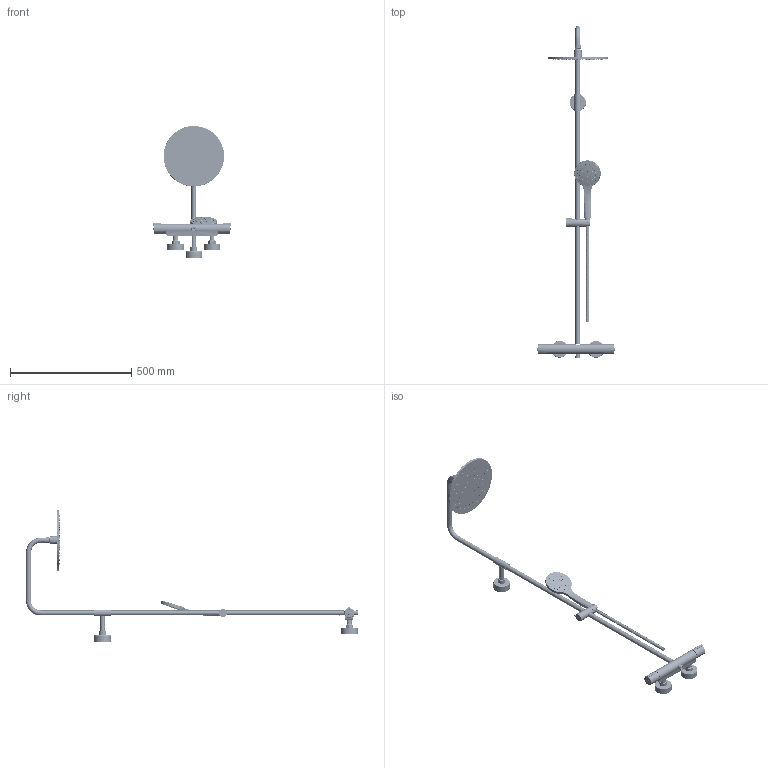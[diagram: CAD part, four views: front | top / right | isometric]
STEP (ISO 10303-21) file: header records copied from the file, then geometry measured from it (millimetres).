
FILE_DESCRIPTION((''),'2;1');
FILE_NAME('F3165SRP251CR_FIEL_3D','2018-04-19T',('ivanv'),(''),'CREO PARAMETRIC BY PTC INC, 2016260','CREO PARAMETRIC BY PTC INC, 2016260','');
FILE_SCHEMA(('CONFIG_CONTROL_DESIGN'));
Products named in the file (1): F3165SRP251CR_FIEL_3D
Bounding box: 319.05 x 1369.1 x 545 mm (x, y, z)
Volume: 1004499.7 mm3; surface area: 656362.9 mm2
Topology: 14 solids, 14 shells, 4707 faces, 11392 edges, 7093 vertices
Faces by surface type: cylinder 1261, plane 1045, bspline 824, cone 799, torus 473, extrusion 212, sphere 93
Entity records: 385471 total; most frequent: CARTESIAN_POINT 283380, ORIENTED_EDGE 22632, DIRECTION 18452, EDGE_CURVE 11316, AXIS2_PLACEMENT_3D 7372, VERTEX_POINT 7093, EDGE_LOOP 5477, FACE_OUTER_BOUND 4707
